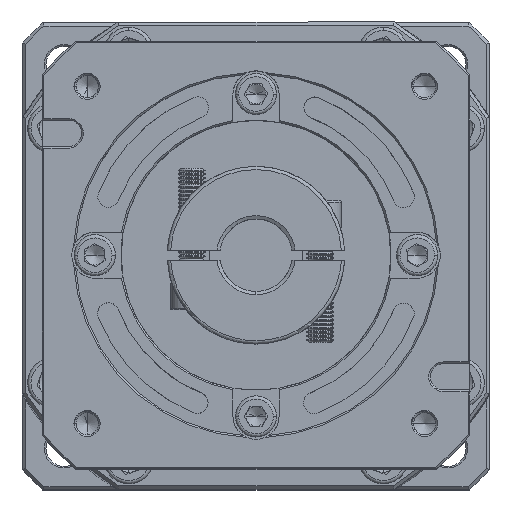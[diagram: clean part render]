
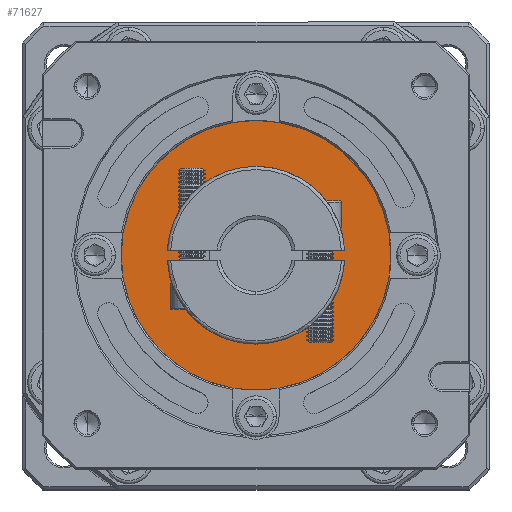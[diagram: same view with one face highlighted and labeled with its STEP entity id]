
A CAD part, top view. The second image highlights one B-rep face of the part: STEP entity #71627.
In plain terms, the highlighted planar face has unit normal (0, 0, 1).
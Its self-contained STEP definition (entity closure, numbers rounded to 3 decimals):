
#12806 = ORIENTED_EDGE ( 'NONE', *, *, #78136, .T. ) ;
#15637 = CARTESIAN_POINT ( 'NONE',  ( -116.809, 63.979, -35.355 ) ) ;
#15665 = ORIENTED_EDGE ( 'NONE', *, *, #72116, .T. ) ;
#17960 = DIRECTION ( 'NONE',  ( 1., 0., 0. ) ) ;
#20641 = CARTESIAN_POINT ( 'NONE',  ( -96.809, 63.979, -35.355 ) ) ;
#21080 = CARTESIAN_POINT ( 'NONE',  ( -75.809, 63.979, -35.355 ) ) ;
#22666 = DIRECTION ( 'NONE',  ( 0., 0., 1. ) ) ;
#24670 = EDGE_CURVE ( 'NONE', #24738, #88276, #76992, .T. ) ;
#24738 = VERTEX_POINT ( 'NONE', #20641 ) ;
#25588 = EDGE_LOOP ( 'NONE', ( #27452, #56110 ) ) ;
#27030 = CARTESIAN_POINT ( 'NONE',  ( -116.809, 63.979, -35.355 ) ) ;
#27452 = ORIENTED_EDGE ( 'NONE', *, *, #24670, .T. ) ;
#40021 = FACE_BOUND ( 'NONE', #25588, .T. ) ;
#46433 = DIRECTION ( 'NONE',  ( 0., 0., 1. ) ) ;
#56110 = ORIENTED_EDGE ( 'NONE', *, *, #93634, .T. ) ;
#57049 = DIRECTION ( 'NONE',  ( 1., 0., 0. ) ) ;
#57934 = CARTESIAN_POINT ( 'NONE',  ( -116.809, 63.979, -35.355 ) ) ;
#58569 = CARTESIAN_POINT ( 'NONE',  ( -116.809, 63.979, -35.355 ) ) ;
#64471 = AXIS2_PLACEMENT_3D ( 'NONE', #94633, #22666, #125115 ) ;
#64761 = AXIS2_PLACEMENT_3D ( 'NONE', #58569, #79206, #17960 ) ;
#71562 = EDGE_LOOP ( 'NONE', ( #12806, #15665 ) ) ;
#71627 = ADVANCED_FACE ( 'NONE', ( #131342, #40021 ), #127029, .T. ) ;
#71696 = CIRCLE ( 'NONE', #92014, 20. ) ;
#72116 = EDGE_CURVE ( 'NONE', #122887, #76235, #78106, .T. ) ;
#76235 = VERTEX_POINT ( 'NONE', #21080 ) ;
#76992 = CIRCLE ( 'NONE', #64761, 20. ) ;
#77676 = DIRECTION ( 'NONE',  ( 0., 0., 1. ) ) ;
#78106 = CIRCLE ( 'NONE', #64471, 41. ) ;
#78136 = EDGE_CURVE ( 'NONE', #76235, #122887, #114874, .T. ) ;
#78186 = DIRECTION ( 'NONE',  ( 1., 0., 0. ) ) ;
#79206 = DIRECTION ( 'NONE',  ( 0., 0., -1. ) ) ;
#82136 = CARTESIAN_POINT ( 'NONE',  ( -157.809, 63.979, -35.355 ) ) ;
#86785 = AXIS2_PLACEMENT_3D ( 'NONE', #57934, #77676, #57049 ) ;
#88276 = VERTEX_POINT ( 'NONE', #97090 ) ;
#92014 = AXIS2_PLACEMENT_3D ( 'NONE', #27030, #117856, #107962 ) ;
#93634 = EDGE_CURVE ( 'NONE', #88276, #24738, #71696, .T. ) ;
#94633 = CARTESIAN_POINT ( 'NONE',  ( -116.809, 63.979, -35.355 ) ) ;
#96250 = AXIS2_PLACEMENT_3D ( 'NONE', #15637, #46433, #78186 ) ;
#97090 = CARTESIAN_POINT ( 'NONE',  ( -136.809, 63.979, -35.355 ) ) ;
#107962 = DIRECTION ( 'NONE',  ( 1., 0., 0. ) ) ;
#114874 = CIRCLE ( 'NONE', #96250, 41. ) ;
#117856 = DIRECTION ( 'NONE',  ( 0., 0., -1. ) ) ;
#122887 = VERTEX_POINT ( 'NONE', #82136 ) ;
#125115 = DIRECTION ( 'NONE',  ( 1., 0., 0. ) ) ;
#127029 = PLANE ( 'NONE',  #86785 ) ;
#131342 = FACE_OUTER_BOUND ( 'NONE', #71562, .T. ) ;
